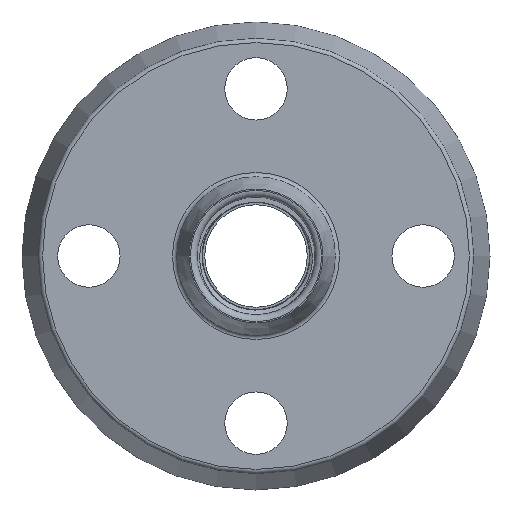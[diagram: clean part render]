
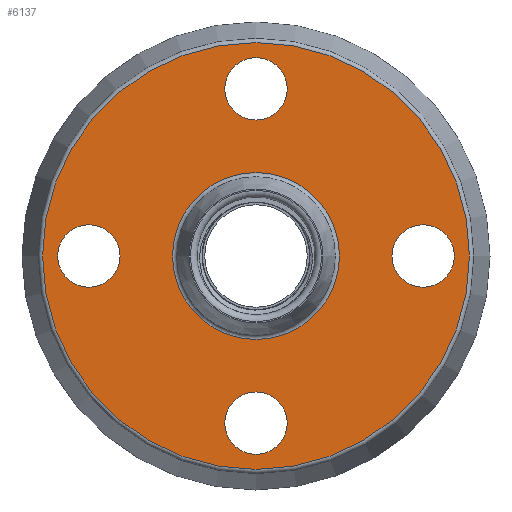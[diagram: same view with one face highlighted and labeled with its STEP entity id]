
A CAD part, left-side view. The second image highlights one B-rep face of the part: STEP entity #6137.
In plain terms, the highlighted planar face has unit normal (-1, 0, 0).
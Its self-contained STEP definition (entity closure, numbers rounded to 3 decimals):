
#74=FACE_BOUND('',#1640,.T.);
#75=FACE_BOUND('',#1641,.T.);
#76=FACE_BOUND('',#1642,.T.);
#77=FACE_BOUND('',#1643,.T.);
#78=FACE_BOUND('',#1644,.T.);
#137=PLANE('',#7239);
#1166=FACE_OUTER_BOUND('',#1639,.T.);
#1639=EDGE_LOOP('',(#5464));
#1640=EDGE_LOOP('',(#5465));
#1641=EDGE_LOOP('',(#5466));
#1642=EDGE_LOOP('',(#5467));
#1643=EDGE_LOOP('',(#5468));
#1644=EDGE_LOOP('',(#5469));
#2349=CIRCLE('',#7223,7.);
#2351=CIRCLE('',#7227,7.);
#2353=CIRCLE('',#7231,7.);
#2355=CIRCLE('',#7235,7.);
#2356=CIRCLE('',#7237,18.727);
#2358=CIRCLE('',#7240,47.881);
#2838=VERTEX_POINT('',#11419);
#2840=VERTEX_POINT('',#11425);
#2842=VERTEX_POINT('',#11431);
#2844=VERTEX_POINT('',#11437);
#2845=VERTEX_POINT('',#11440);
#2847=VERTEX_POINT('',#11445);
#3723=EDGE_CURVE('',#2838,#2838,#2349,.T.);
#3725=EDGE_CURVE('',#2840,#2840,#2351,.T.);
#3727=EDGE_CURVE('',#2842,#2842,#2353,.T.);
#3729=EDGE_CURVE('',#2844,#2844,#2355,.T.);
#3730=EDGE_CURVE('',#2845,#2845,#2356,.T.);
#3732=EDGE_CURVE('',#2847,#2847,#2358,.T.);
#5464=ORIENTED_EDGE('',*,*,#3732,.F.);
#5465=ORIENTED_EDGE('',*,*,#3725,.T.);
#5466=ORIENTED_EDGE('',*,*,#3727,.T.);
#5467=ORIENTED_EDGE('',*,*,#3729,.T.);
#5468=ORIENTED_EDGE('',*,*,#3723,.T.);
#5469=ORIENTED_EDGE('',*,*,#3730,.F.);
#6137=ADVANCED_FACE('',(#1166,#74,#75,#76,#77,#78),#137,.T.);
#7223=AXIS2_PLACEMENT_3D('',#11420,#9585,#9586);
#7227=AXIS2_PLACEMENT_3D('',#11426,#9593,#9594);
#7231=AXIS2_PLACEMENT_3D('',#11432,#9601,#9602);
#7235=AXIS2_PLACEMENT_3D('',#11438,#9609,#9610);
#7237=AXIS2_PLACEMENT_3D('',#11441,#9613,#9614);
#7239=AXIS2_PLACEMENT_3D('',#11444,#9617,#9618);
#7240=AXIS2_PLACEMENT_3D('',#11446,#9619,#9620);
#9585=DIRECTION('center_axis',(1.,0.,0.));
#9586=DIRECTION('ref_axis',(0.,0.,1.));
#9593=DIRECTION('center_axis',(1.,0.,0.));
#9594=DIRECTION('ref_axis',(0.,1.,0.));
#9601=DIRECTION('center_axis',(1.,0.,0.));
#9602=DIRECTION('ref_axis',(0.,0.,-1.));
#9609=DIRECTION('center_axis',(1.,0.,0.));
#9610=DIRECTION('ref_axis',(0.,-1.,0.));
#9613=DIRECTION('center_axis',(-1.,0.,0.));
#9614=DIRECTION('ref_axis',(0.,1.,0.));
#9617=DIRECTION('center_axis',(-1.,0.,0.));
#9618=DIRECTION('ref_axis',(0.,0.,1.));
#9619=DIRECTION('center_axis',(1.,0.,0.));
#9620=DIRECTION('ref_axis',(0.,1.,0.));
#11419=CARTESIAN_POINT('',(9.25,37.5,7.));
#11420=CARTESIAN_POINT('Origin',(9.25,37.5,0.));
#11425=CARTESIAN_POINT('',(9.25,7.,-37.5));
#11426=CARTESIAN_POINT('Origin',(9.25,0.,
-37.5));
#11431=CARTESIAN_POINT('',(9.25,-37.5,-7.));
#11432=CARTESIAN_POINT('Origin',(9.25,-37.5,0.));
#11437=CARTESIAN_POINT('',(9.25,-7.,37.5));
#11438=CARTESIAN_POINT('Origin',(9.25,0.,
37.5));
#11440=CARTESIAN_POINT('',(9.25,-18.727,0.));
#11441=CARTESIAN_POINT('Origin',(9.25,0.,0.));
#11444=CARTESIAN_POINT('Origin',(9.25,-18.,0.));
#11445=CARTESIAN_POINT('',(9.25,-47.881,0.));
#11446=CARTESIAN_POINT('Origin',(9.25,0.,0.));
